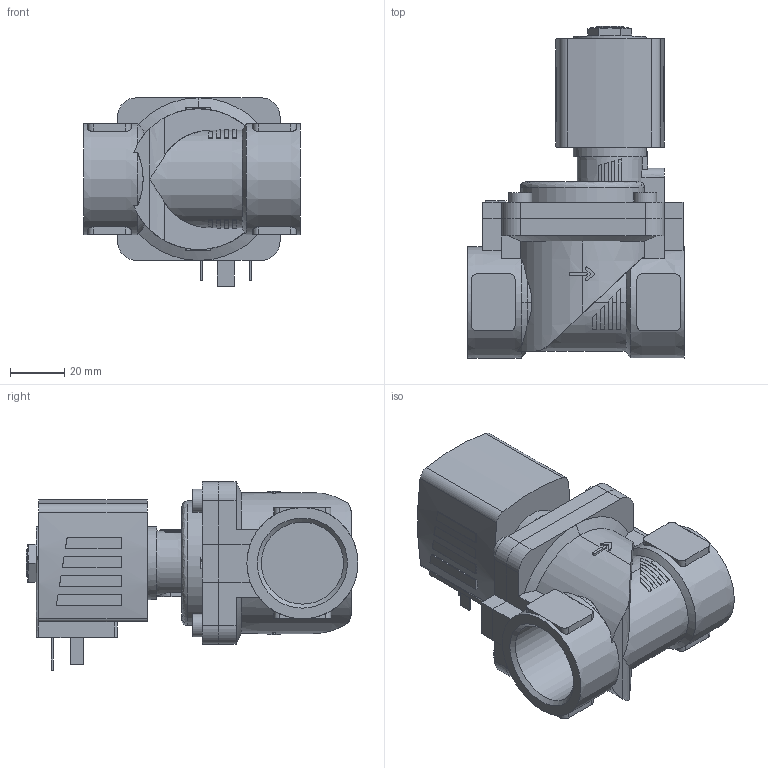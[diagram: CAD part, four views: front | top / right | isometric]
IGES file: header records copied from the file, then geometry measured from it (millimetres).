
Start section: Data from Parasolid IGES Translator 26.0.171, Copyright(c) 2006 Siemens PLM Software. All Rights Reserved.
Global section: file name: 6281-334561-2_2-Way_Solenoid_Valve__Servo-assisted__General_Purpose.igs; native system: By Siemens PLM Incorporated; preprocessor: XPlus GENERIC/IGES 26.0.171; author: Noname; organization: Noname; date: 20240527.114649; units: millimetre
Bounding box: 80 x 122.5 x 69.5 mm (x, y, z)
Surface area: 48135.2 mm2 (no closed solid volume)
Topology: 0 solids, 0 shells, 352 faces, 1816 edges, 1797 vertices
Faces by surface type: extrusion 229, revolution 123
